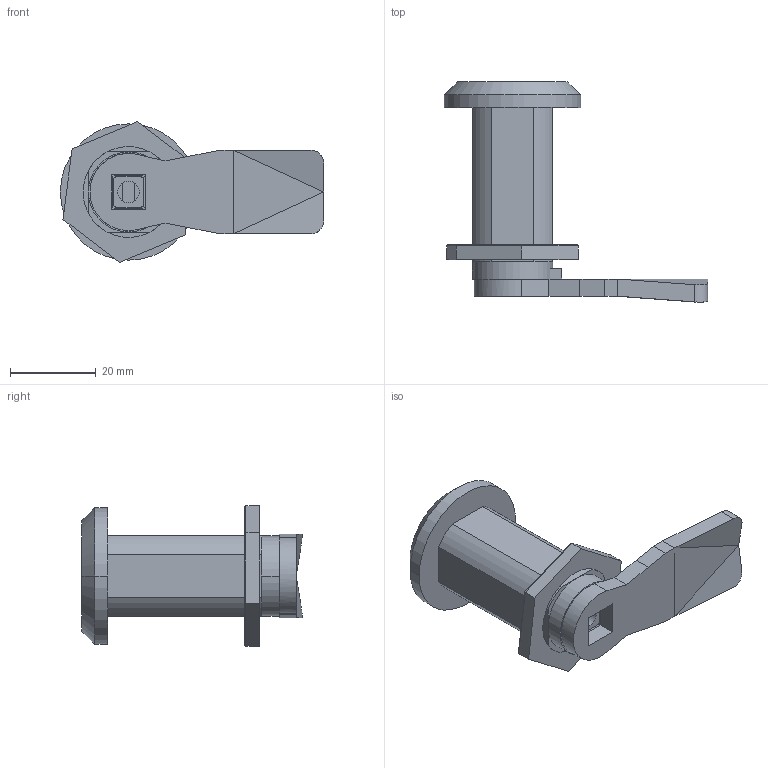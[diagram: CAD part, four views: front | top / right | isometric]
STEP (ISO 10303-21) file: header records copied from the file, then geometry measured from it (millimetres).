
FILE_DESCRIPTION (( 'STEP AP214' ), '1' );
FILE_NAME ('1.4021 Yksikielinen lukko 32.STEP', '2026-03-10T12:24:08', ( '' ), ( '' ), 'SwSTEP 2.0', 'SolidWorks 2025', '' );
FILE_SCHEMA (( 'AUTOMOTIVE_DESIGN' ));
Length unit declared in the file: millimetre
Products named in the file (1): 1.4021 Yksikielinen lukko 32
Bounding box: 61.4 x 51.39 x 32.86 mm (x, y, z)
Surface area: 9377.2 mm2 (no closed solid volume)
Topology: 0 solids, 5 shells, 83 faces, 209 edges, 136 vertices
Faces by surface type: plane 57, cylinder 24, cone 2
Entity records: 3537 total; most frequent: CARTESIAN_POINT 786, ORIENTED_EDGE 394, DIRECTION 336, EDGE_CURVE 209, VERTEX_POINT 136, AXIS2_PLACEMENT_3D 126, EDGE_LOOP 93, VECTOR 84
